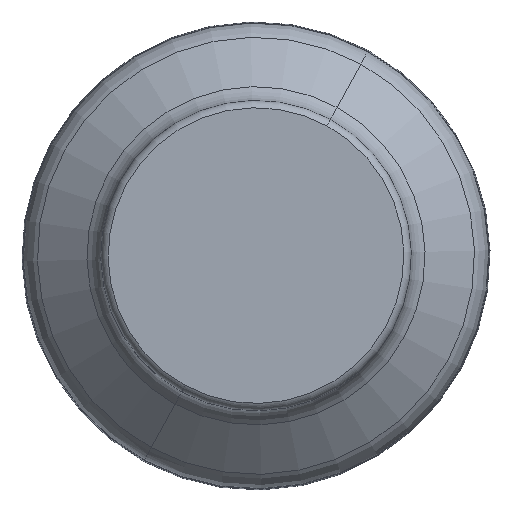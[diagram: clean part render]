
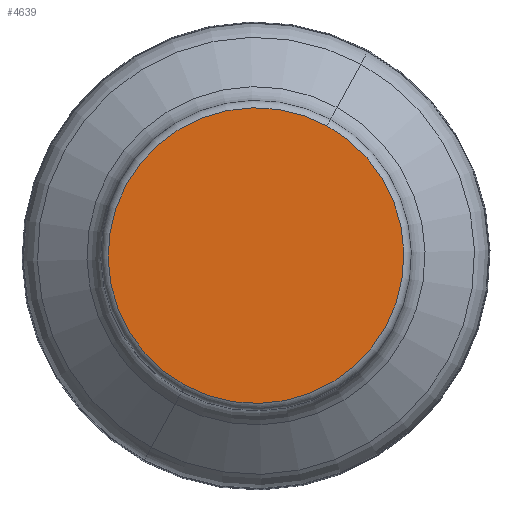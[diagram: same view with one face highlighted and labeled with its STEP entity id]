
A CAD part, top view. The second image highlights one B-rep face of the part: STEP entity #4639.
In plain terms, the highlighted planar face has unit normal (0, 0, 1).
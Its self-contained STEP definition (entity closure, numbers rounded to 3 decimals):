
#4501=AXIS2_PLACEMENT_3D('Circle Axis2P3D',#4499,#4500,$) ;
#4520=AXIS2_PLACEMENT_3D('Circle Axis2P3D',#4518,#4519,$) ;
#4633=AXIS2_PLACEMENT_3D('Plane Axis2P3D',#4630,#4631,#4632) ;
#4496=CARTESIAN_POINT('Vertex',(10.965,20.072,39.997)) ;
#4499=CARTESIAN_POINT('Axis2P3D Location',(0.,0.,39.997)) ;
#4503=CARTESIAN_POINT('Vertex',(-10.965,-20.072,39.997)) ;
#4518=CARTESIAN_POINT('Axis2P3D Location',(0.,0.,39.997)) ;
#4630=CARTESIAN_POINT('Axis2P3D Location',(0.,0.,39.997)) ;
#4500=DIRECTION('Axis2P3D Direction',(0.,0.,-1.)) ;
#4519=DIRECTION('Axis2P3D Direction',(0.,0.,-1.)) ;
#4631=DIRECTION('Axis2P3D Direction',(0.,0.,-1.)) ;
#4632=DIRECTION('Axis2P3D XDirection',(0.,1.,0.)) ;
#4636=ORIENTED_EDGE('',*,*,#4505,.F.) ;
#4637=ORIENTED_EDGE('',*,*,#4522,.F.) ;
#4639=ADVANCED_FACE('NO_CUT',(#4638),#4634,.F.) ;
#4502=CIRCLE('generated circle',#4501,22.872) ;
#4521=CIRCLE('generated circle',#4520,22.872) ;
#4505=EDGE_CURVE('',#4497,#4504,#4502,.T.) ;
#4522=EDGE_CURVE('',#4504,#4497,#4521,.T.) ;
#4635=EDGE_LOOP('',(#4636,#4637)) ;
#4638=FACE_OUTER_BOUND('',#4635,.T.) ;
#4634=PLANE('',#4633) ;
#4497=VERTEX_POINT('',#4496) ;
#4504=VERTEX_POINT('',#4503) ;
